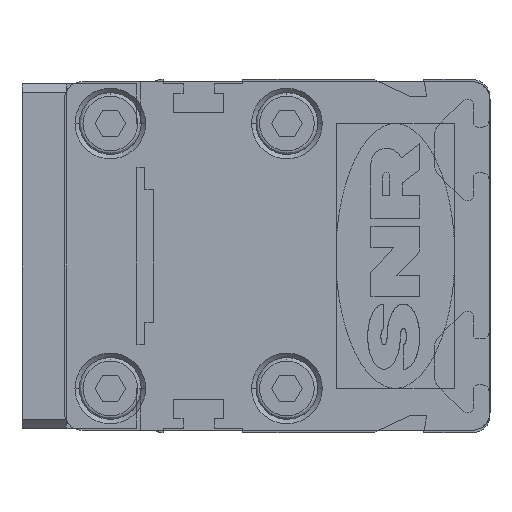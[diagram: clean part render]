
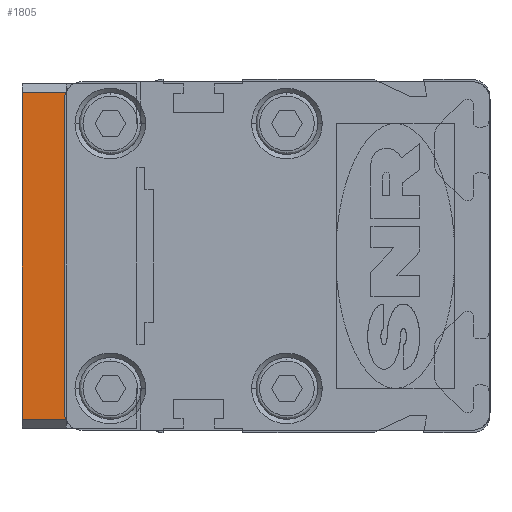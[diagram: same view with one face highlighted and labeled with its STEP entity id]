
A CAD part, left-side view. The second image highlights one B-rep face of the part: STEP entity #1805.
In plain terms, the highlighted planar face has unit normal (-1, 0, 0).
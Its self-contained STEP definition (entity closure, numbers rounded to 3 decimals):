
#1805=ADVANCED_FACE('',(#5251),#5252,.T.);
#5251=FACE_OUTER_BOUND('',#8703,.T.);
#5252=PLANE('',#8704);
#8703=EDGE_LOOP('',(#23723,#23724,#23725,#23726,#23727,#23728,#23729,#23730));
#8704=AXIS2_PLACEMENT_3D('',#23731,#23732,#23733);
#23723=ORIENTED_EDGE('',*,*,#28746,.T.);
#23724=ORIENTED_EDGE('',*,*,#28743,.F.);
#23725=ORIENTED_EDGE('',*,*,#28739,.F.);
#23726=ORIENTED_EDGE('',*,*,#28742,.T.);
#23727=ORIENTED_EDGE('',*,*,#28757,.T.);
#23728=ORIENTED_EDGE('',*,*,#28758,.F.);
#23729=ORIENTED_EDGE('',*,*,#28689,.T.);
#23730=ORIENTED_EDGE('',*,*,#28756,.T.);
#23731=CARTESIAN_POINT('',(32.0,53.0,-18.5));
#23732=DIRECTION('',(-1.0,0.,0.0));
#23733=DIRECTION('',(0.,0.,-1.0));
#28689=EDGE_CURVE('',#36940,#36938,#36941,.T.);
#28739=EDGE_CURVE('',#36994,#36989,#36996,.T.);
#28742=EDGE_CURVE('',#36994,#36999,#37001,.T.);
#28743=EDGE_CURVE('',#36989,#37002,#37003,.T.);
#28746=EDGE_CURVE('',#37007,#37002,#37008,.T.);
#28756=EDGE_CURVE('',#36938,#37007,#37022,.T.);
#28757=EDGE_CURVE('',#36999,#37023,#37024,.T.);
#28758=EDGE_CURVE('',#36940,#37023,#37025,.T.);
#36938=VERTEX_POINT('',#71544);
#36940=VERTEX_POINT('',#71547);
#36941=LINE('',#71548,#71549);
#36989=VERTEX_POINT('',#71599);
#36994=VERTEX_POINT('',#71606);
#36996=LINE('',#71609,#71610);
#36999=VERTEX_POINT('',#71614);
#37001=LINE('',#71617,#71618);
#37002=VERTEX_POINT('',#71619);
#37003=LINE('',#71620,#71621);
#37007=VERTEX_POINT('',#71627);
#37008=LINE('',#71628,#71629);
#37022=LINE('',#71652,#71653);
#37023=VERTEX_POINT('',#71654);
#37024=LINE('',#71655,#71656);
#37025=LINE('',#71657,#71658);
#71544=CARTESIAN_POINT('',(32.0,53.0,-18.5));
#71547=CARTESIAN_POINT('',(32.0,53.0,18.5));
#71548=CARTESIAN_POINT('',(32.0,53.0,18.5));
#71549=VECTOR('',#81572,1.0);
#71599=CARTESIAN_POINT('',(32.0,38.0,-7.5));
#71606=CARTESIAN_POINT('',(32.0,38.0,7.5));
#71609=CARTESIAN_POINT('',(32.0,38.0,0.));
#71610=VECTOR('',#81710,1.0);
#71614=CARTESIAN_POINT('',(32.0,40.0,7.5));
#71617=CARTESIAN_POINT('',(32.0,39.0,7.5));
#71618=VECTOR('',#81713,1.0);
#71619=CARTESIAN_POINT('',(32.0,40.0,-7.5));
#71620=CARTESIAN_POINT('',(32.0,39.0,-7.5));
#71621=VECTOR('',#81714,1.0);
#71627=CARTESIAN_POINT('',(32.0,40.0,-18.5));
#71628=CARTESIAN_POINT('',(32.0,40.0,18.5));
#71629=VECTOR('',#81717,1.0);
#71652=CARTESIAN_POINT('',(32.0,53.0,-18.5));
#71653=VECTOR('',#81727,1.0);
#71654=CARTESIAN_POINT('',(32.0,40.0,18.5));
#71655=CARTESIAN_POINT('',(32.0,40.0,18.5));
#71656=VECTOR('',#81728,1.0);
#71657=CARTESIAN_POINT('',(32.0,53.0,18.5));
#71658=VECTOR('',#81729,1.0);
#81572=DIRECTION('',(0.0,0.,-1.0));
#81710=DIRECTION('',(0.,0.0,-1.0));
#81713=DIRECTION('',(0.,1.0,0.));
#81714=DIRECTION('',(0.,1.0,0.));
#81717=DIRECTION('',(0.0,0.,1.0));
#81727=DIRECTION('',(0.,-1.0,0.));
#81728=DIRECTION('',(0.0,0.,1.0));
#81729=DIRECTION('',(0.,-1.0,0.));
